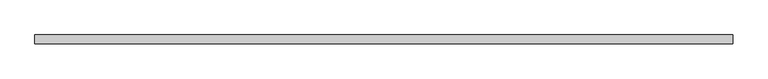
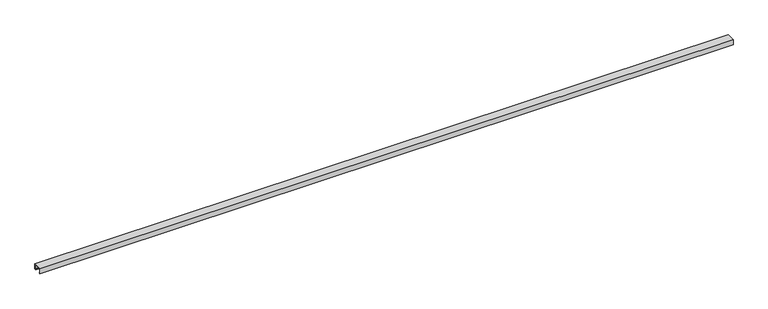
"""IFC4 building model written with IfcOpenShell, lengths in millimetres: proxy geometry, durlum_loop_bubble_secondary_profile : durlum_loop_bubble_secondary_profile."""

from ifc_helpers import new_model, si_unit, frame, origin, place, context, project, spatial, polyline, outline, extrude, source, transform, mapped, element, save


def generic_models_4432ad25(model_context):
    return source(origin(), model_context, "Body", "SweptSolid", [
        extrude(outline(polyline([(-25.0, 0.0), (-25.0, 29.0), (25.0, 29.0), (25.0, 0.0), (17.0, 0.0), (17.0, 1.0), (24.0, 1.0), (24.0, 28.0), (-24.0, 28.0), (-24.0, 1.0), (-17.0, 1.0), (-17.0, 0.0), (-25.0, 0.0)])), frame((-2000.0, 0.0, 0.0), z_axis=(1.0, 0.0, 0.0), x_axis=(0.0, 1.0, 0.0)), (0.0, 0.0, 1.0), 4000.0),
    ])


if __name__ == "__main__":
    model = new_model("IFC4")
    model_context = context("Model", 3, world=origin())
    ifc_project = project(units=[si_unit("LENGTHUNIT", "METRE", prefix="MILLI")], contexts=[model_context])
    site = spatial("IfcSite", under=ifc_project)
    building = spatial("IfcBuilding", under=site)
    placement = place(None, origin())
    generic_models_shape = generic_models_4432ad25(model_context)
    element("IfcBuildingElementProxy", 1, Name="durlum_loop_bubble_secondary_profile : durlum_loop_bubble_secondary_profile", ObjectType="durlum_loop_bubble_secondary_profile : durlum_loop_bubble_secondary_profile", at=placement, inside=building, context=model_context, shape_type="MappedRepresentation", body=[
        mapped(generic_models_shape, transform((0.0, 0.0, 0.0), x_axis=(1.0, 0.0, 0.0), y_axis=(0.0, 1.0, 0.0), z_axis=(0.0, 0.0, 1.0))),
    ])
    save(model, "model.ifc")
